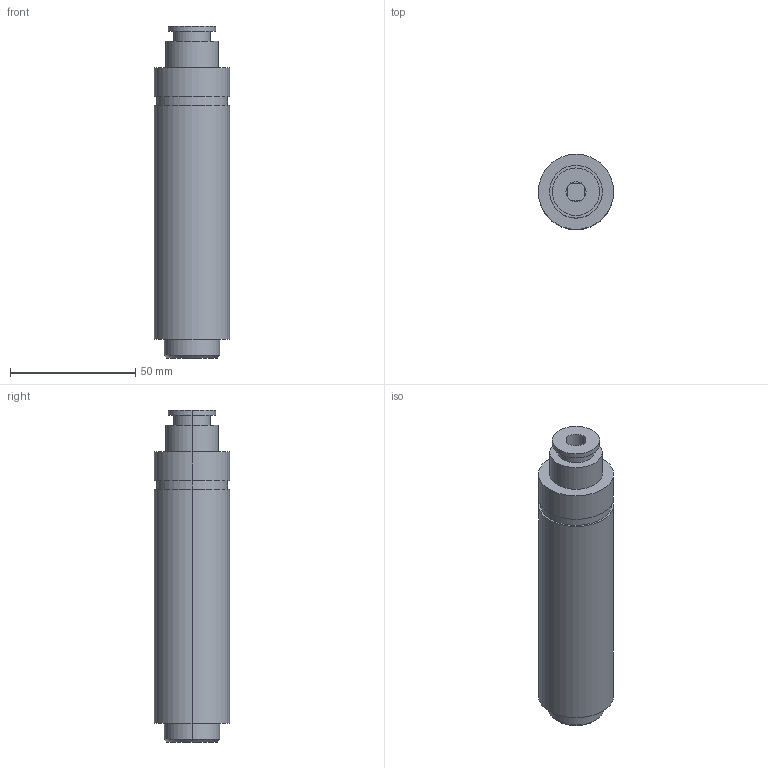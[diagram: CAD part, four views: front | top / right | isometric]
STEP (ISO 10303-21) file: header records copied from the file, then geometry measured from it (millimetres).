
FILE_DESCRIPTION (( 'STEP AP203' ), '1' );
FILE_NAME ('042J000034 Tapping spindle with length compensation GS12E JT2.STEP', '2009-09-03T14:03:59', ( 'HP' ), ( '' ), 'SwSTEP 2.0', 'SolidWorks 2008', '' );
FILE_SCHEMA (( 'CONFIG_CONTROL_DESIGN' ));
Length unit declared in the file: millimetre
Products named in the file (1): 042J000034 Tapping spindle with length compensation GS12E JT2
Bounding box: 30 x 30 x 132.3 mm (x, y, z)
Volume: 79437.6 mm3; surface area: 15107.7 mm2
Topology: 1 solids, 1 shells, 42 faces, 86 edges, 54 vertices
Faces by surface type: plane 22, cylinder 16, cone 4
Entity records: 1193 total; most frequent: DIRECTION 218, CARTESIAN_POINT 183, ORIENTED_EDGE 172, AXIS2_PLACEMENT_3D 89, EDGE_CURVE 86, VERTEX_POINT 54, EDGE_LOOP 50, CIRCLE 46
